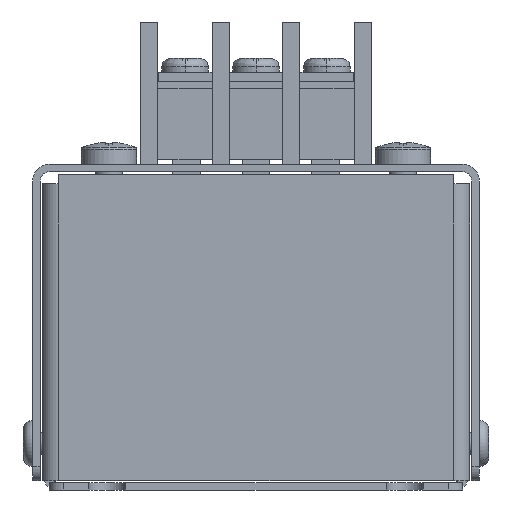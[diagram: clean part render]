
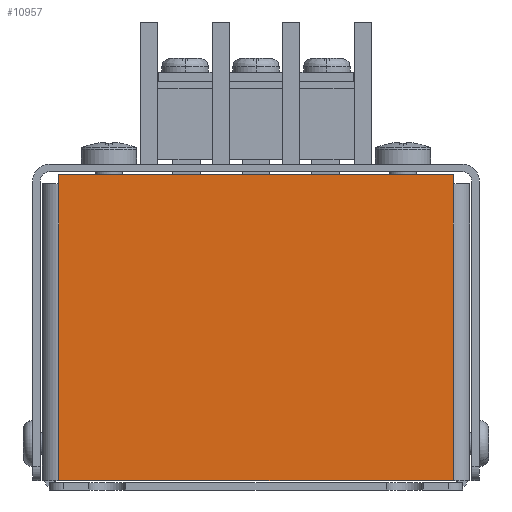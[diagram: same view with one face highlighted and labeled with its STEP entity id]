
A CAD part, front view. The second image highlights one B-rep face of the part: STEP entity #10957.
In plain terms, the highlighted planar face has unit normal (0, -1, 0).
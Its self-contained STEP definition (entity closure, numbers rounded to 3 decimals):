
#625 = PLANE ( 'NONE',  #12947 ) ;
#813 = ORIENTED_EDGE ( 'NONE', *, *, #13632, .F. ) ;
#1860 = ORIENTED_EDGE ( 'NONE', *, *, #6787, .F. ) ;
#2066 = DIRECTION ( 'NONE',  ( 0., 0., -1. ) ) ;
#2069 = DIRECTION ( 'NONE',  ( 1., 0., 0. ) ) ;
#2631 = VECTOR ( 'NONE', #14259, 1000. ) ;
#3025 = DIRECTION ( 'NONE',  ( 0., 0., -1. ) ) ;
#3386 = CARTESIAN_POINT ( 'NONE',  ( 22.197, -75., 32.9 ) ) ;
#3771 = LINE ( 'NONE', #12575, #6544 ) ;
#3900 = CARTESIAN_POINT ( 'NONE',  ( -20.2, -75., 33.9 ) ) ;
#4294 = ORIENTED_EDGE ( 'NONE', *, *, #11145, .F. ) ;
#4775 = EDGE_CURVE ( 'NONE', #7469, #10933, #5456, .T. ) ;
#5400 = EDGE_LOOP ( 'NONE', ( #813, #1860, #8089, #8823, #4294, #7765 ) ) ;
#5423 = VECTOR ( 'NONE', #2069, 1000. ) ;
#5456 = LINE ( 'NONE', #9851, #2631 ) ;
#5522 = LINE ( 'NONE', #7780, #7859 ) ;
#6015 = EDGE_CURVE ( 'NONE', #10933, #10309, #3771, .T. ) ;
#6175 = CARTESIAN_POINT ( 'NONE',  ( -95.473, -75., -20.473 ) ) ;
#6240 = FACE_OUTER_BOUND ( 'NONE', #5400, .T. ) ;
#6295 = CARTESIAN_POINT ( 'NONE',  ( 22.197, -75., 33.9 ) ) ;
#6366 = VERTEX_POINT ( 'NONE', #3386 ) ;
#6442 = VECTOR ( 'NONE', #3025, 1000. ) ;
#6544 = VECTOR ( 'NONE', #9102, 1000. ) ;
#6787 = EDGE_CURVE ( 'NONE', #10309, #9481, #11021, .T. ) ;
#7469 = VERTEX_POINT ( 'NONE', #12336 ) ;
#7513 = LINE ( 'NONE', #10680, #6442 ) ;
#7765 = ORIENTED_EDGE ( 'NONE', *, *, #10495, .F. ) ;
#7780 = CARTESIAN_POINT ( 'NONE',  ( -95.473, -75., 1. ) ) ;
#7859 = VECTOR ( 'NONE', #12179, 1000. ) ;
#8089 = ORIENTED_EDGE ( 'NONE', *, *, #6015, .F. ) ;
#8548 = LINE ( 'NONE', #10808, #11336 ) ;
#8555 = CARTESIAN_POINT ( 'NONE',  ( -20.2, -75., 32.9 ) ) ;
#8823 = ORIENTED_EDGE ( 'NONE', *, *, #4775, .F. ) ;
#8869 = VERTEX_POINT ( 'NONE', #11118 ) ;
#9102 = DIRECTION ( 'NONE',  ( 0., 0., 1. ) ) ;
#9481 = VERTEX_POINT ( 'NONE', #6295 ) ;
#9851 = CARTESIAN_POINT ( 'NONE',  ( -20.2, -75., 32.9 ) ) ;
#10309 = VERTEX_POINT ( 'NONE', #3900 ) ;
#10495 = EDGE_CURVE ( 'NONE', #6366, #8869, #7513, .T. ) ;
#10661 = DIRECTION ( 'NONE',  ( 0., 1., 0. ) ) ;
#10680 = CARTESIAN_POINT ( 'NONE',  ( 22.197, -75., -20.473 ) ) ;
#10808 = CARTESIAN_POINT ( 'NONE',  ( 22.197, -75., -20.473 ) ) ;
#10933 = VERTEX_POINT ( 'NONE', #8555 ) ;
#10957 = ADVANCED_FACE ( 'NONE', ( #6240 ), #625, .F. ) ;
#11021 = LINE ( 'NONE', #14262, #5423 ) ;
#11118 = CARTESIAN_POINT ( 'NONE',  ( 22.197, -75., 1. ) ) ;
#11145 = EDGE_CURVE ( 'NONE', #8869, #7469, #5522, .T. ) ;
#11336 = VECTOR ( 'NONE', #2066, 1000. ) ;
#12179 = DIRECTION ( 'NONE',  ( -1., 0., 0. ) ) ;
#12336 = CARTESIAN_POINT ( 'NONE',  ( -20.2, -75., 1. ) ) ;
#12575 = CARTESIAN_POINT ( 'NONE',  ( -20.2, -75., -20.473 ) ) ;
#12769 = DIRECTION ( 'NONE',  ( -1., 0., 0. ) ) ;
#12947 = AXIS2_PLACEMENT_3D ( 'NONE', #6175, #10661, #12769 ) ;
#13632 = EDGE_CURVE ( 'NONE', #9481, #6366, #8548, .T. ) ;
#14259 = DIRECTION ( 'NONE',  ( 0., 0., 1. ) ) ;
#14262 = CARTESIAN_POINT ( 'NONE',  ( -95.473, -75., 33.9 ) ) ;
